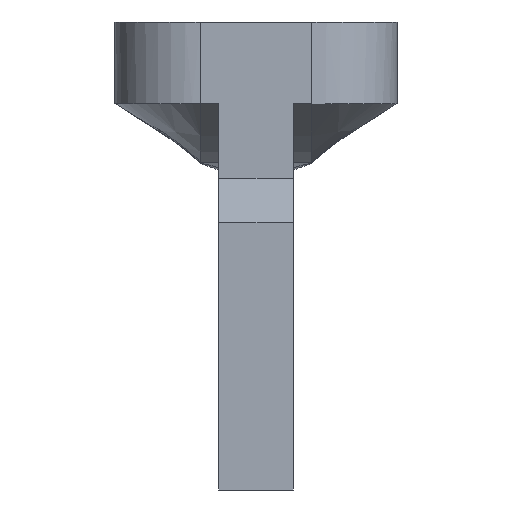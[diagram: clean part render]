
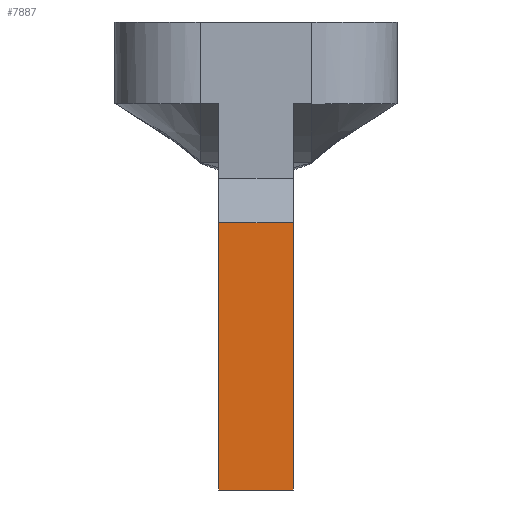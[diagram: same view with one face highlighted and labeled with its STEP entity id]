
A CAD part, left-side view. The second image highlights one B-rep face of the part: STEP entity #7887.
In plain terms, the highlighted planar face has unit normal (-1, 0, 0).
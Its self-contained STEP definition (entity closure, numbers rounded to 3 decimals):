
#464 = CARTESIAN_POINT ( 'NONE',  ( -179., -96.5, -260.5 ) ) ;
#1437 = VECTOR ( 'NONE', #14235, 1000. ) ;
#1739 = EDGE_CURVE ( 'NONE', #7688, #12672, #15866, .T. ) ;
#3533 = ORIENTED_EDGE ( 'NONE', *, *, #8333, .T. ) ;
#3848 = DIRECTION ( 'NONE',  ( 0., 0., -1. ) ) ;
#3893 = FACE_OUTER_BOUND ( 'NONE', #5698, .T. ) ;
#4161 = VECTOR ( 'NONE', #3848, 1000. ) ;
#4272 = CARTESIAN_POINT ( 'NONE',  ( -179., -84., -260.5 ) ) ;
#5168 = VERTEX_POINT ( 'NONE', #464 ) ;
#5544 = CARTESIAN_POINT ( 'NONE',  ( -179., -86.5, -224.5 ) ) ;
#5698 = EDGE_LOOP ( 'NONE', ( #16929, #3533, #7769, #8487 ) ) ;
#7123 = EDGE_CURVE ( 'NONE', #13346, #5168, #10203, .T. ) ;
#7377 = AXIS2_PLACEMENT_3D ( 'NONE', #20246, #20911, #14079 ) ;
#7688 = VERTEX_POINT ( 'NONE', #19386 ) ;
#7769 = ORIENTED_EDGE ( 'NONE', *, *, #1739, .F. ) ;
#7887 = ADVANCED_FACE ( 'NONE', ( #3893 ), #16576, .T. ) ;
#8047 = VECTOR ( 'NONE', #11082, 1000. ) ;
#8333 = EDGE_CURVE ( 'NONE', #13346, #12672, #16190, .T. ) ;
#8487 = ORIENTED_EDGE ( 'NONE', *, *, #12880, .T. ) ;
#10203 = LINE ( 'NONE', #21676, #4161 ) ;
#11082 = DIRECTION ( 'NONE',  ( 0., -1., 0. ) ) ;
#12518 = VECTOR ( 'NONE', #14804, 1000. ) ;
#12623 = CARTESIAN_POINT ( 'NONE',  ( -179., -86.5, -260.5 ) ) ;
#12672 = VERTEX_POINT ( 'NONE', #5544 ) ;
#12880 = EDGE_CURVE ( 'NONE', #7688, #5168, #13805, .T. ) ;
#13111 = CARTESIAN_POINT ( 'NONE',  ( -179., -72.401, -224.5 ) ) ;
#13346 = VERTEX_POINT ( 'NONE', #17390 ) ;
#13805 = LINE ( 'NONE', #4272, #8047 ) ;
#14079 = DIRECTION ( 'NONE',  ( 0., 0., 1. ) ) ;
#14235 = DIRECTION ( 'NONE',  ( 0., 0., 1. ) ) ;
#14804 = DIRECTION ( 'NONE',  ( 0., 1., 0. ) ) ;
#15866 = LINE ( 'NONE', #12623, #1437 ) ;
#16190 = LINE ( 'NONE', #13111, #12518 ) ;
#16576 = PLANE ( 'NONE',  #7377 ) ;
#16929 = ORIENTED_EDGE ( 'NONE', *, *, #7123, .F. ) ;
#17390 = CARTESIAN_POINT ( 'NONE',  ( -179., -96.5, -224.5 ) ) ;
#19386 = CARTESIAN_POINT ( 'NONE',  ( -179., -86.5, -260.5 ) ) ;
#20246 = CARTESIAN_POINT ( 'NONE',  ( -179., -84., -260.5 ) ) ;
#20911 = DIRECTION ( 'NONE',  ( -1., 0., 0. ) ) ;
#21676 = CARTESIAN_POINT ( 'NONE',  ( -179., -96.5, -260.5 ) ) ;
